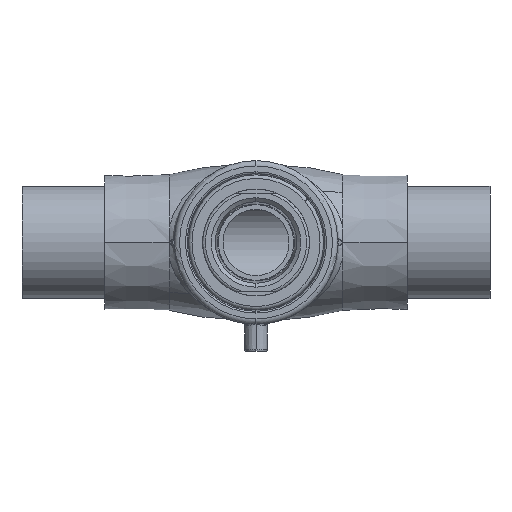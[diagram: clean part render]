
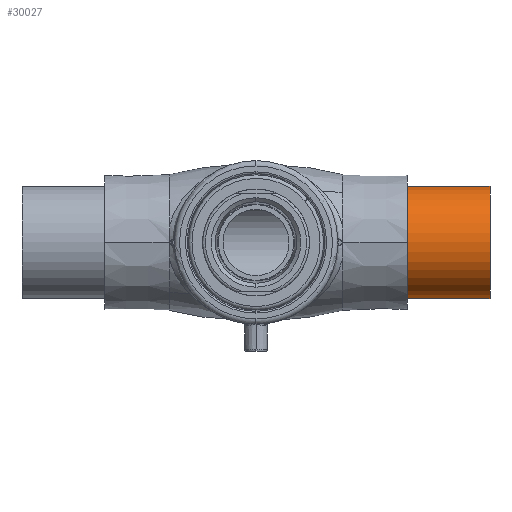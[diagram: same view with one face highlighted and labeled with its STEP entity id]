
A CAD part, left-side view. The second image highlights one B-rep face of the part: STEP entity #30027.
In plain terms, the highlighted cylindrical face has radius 31.5 mm (diameter 63 mm), a partial arc.
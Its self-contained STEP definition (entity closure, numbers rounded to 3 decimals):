
#7494 = DIRECTION ( 'NONE',  ( 0., 1., 0. ) ) ;
#7495 = FACE_OUTER_BOUND ( 'NONE', #39445, .T. ) ;
#7497 = CARTESIAN_POINT ( 'NONE',  ( 509.374, -161.291, -552.079 ) ) ;
#7499 = CYLINDRICAL_SURFACE ( 'NONE', #19145, 31.5 ) ;
#7500 = DIRECTION ( 'NONE',  ( 0., 0., -1. ) ) ;
#9693 = CIRCLE ( 'NONE', #9703, 31.5 ) ;
#9697 = CIRCLE ( 'NONE', #9700, 31.5 ) ;
#9699 = VECTOR ( 'NONE', #13216, 1000. ) ;
#9700 = AXIS2_PLACEMENT_3D ( 'NONE', #13208, #13210, #13212 ) ;
#9702 = VECTOR ( 'NONE', #13229, 1000. ) ;
#9703 = AXIS2_PLACEMENT_3D ( 'NONE', #13222, #13224, #13226 ) ;
#13195 = LINE ( 'NONE', #13197, #9699 ) ;
#13197 = CARTESIAN_POINT ( 'NONE',  ( 509.374, -161.291, -520.579 ) ) ;
#13205 = CARTESIAN_POINT ( 'NONE',  ( 509.374, -161.291, -583.579 ) ) ;
#13208 = CARTESIAN_POINT ( 'NONE',  ( 509.374, -161.291, -552.079 ) ) ;
#13210 = DIRECTION ( 'NONE',  ( 0., -1., 0. ) ) ;
#13212 = DIRECTION ( 'NONE',  ( 0., 0., 1. ) ) ;
#13214 = LINE ( 'NONE', #13205, #9702 ) ;
#13216 = DIRECTION ( 'NONE',  ( 0., 1., 0. ) ) ;
#13222 = CARTESIAN_POINT ( 'NONE',  ( 509.374, -81.031, -552.079 ) ) ;
#13224 = DIRECTION ( 'NONE',  ( 0., -1., 0. ) ) ;
#13226 = DIRECTION ( 'NONE',  ( 0., 0., 1. ) ) ;
#13229 = DIRECTION ( 'NONE',  ( 0., 1., 0. ) ) ;
#19145 = AXIS2_PLACEMENT_3D ( 'NONE', #7497, #7494, #7500 ) ;
#20151 = VERTEX_POINT ( 'NONE', #35275 ) ;
#20169 = VERTEX_POINT ( 'NONE', #35293 ) ;
#20377 = VERTEX_POINT ( 'NONE', #35501 ) ;
#20432 = VERTEX_POINT ( 'NONE', #35556 ) ;
#25248 = ORIENTED_EDGE ( 'NONE', *, *, #36542, .F. ) ;
#25249 = ORIENTED_EDGE ( 'NONE', *, *, #36543, .T. ) ;
#25250 = ORIENTED_EDGE ( 'NONE', *, *, #36544, .T. ) ;
#25251 = ORIENTED_EDGE ( 'NONE', *, *, #36545, .F. ) ;
#30027 = ADVANCED_FACE ( 'NONE', ( #7495 ), #7499, .T. ) ;
#35275 = CARTESIAN_POINT ( 'NONE',  ( 509.374, -81.031, -583.579 ) ) ;
#35293 = CARTESIAN_POINT ( 'NONE',  ( 509.374, -161.291, -583.579 ) ) ;
#35501 = CARTESIAN_POINT ( 'NONE',  ( 509.374, -161.291, -520.579 ) ) ;
#35556 = CARTESIAN_POINT ( 'NONE',  ( 509.374, -81.031, -520.579 ) ) ;
#36542 = EDGE_CURVE ( 'NONE', #20377, #20169, #9697, .T. ) ;
#36543 = EDGE_CURVE ( 'NONE', #20377, #20432, #13195, .T. ) ;
#36544 = EDGE_CURVE ( 'NONE', #20432, #20151, #9693, .T. ) ;
#36545 = EDGE_CURVE ( 'NONE', #20169, #20151, #13214, .T. ) ;
#39445 = EDGE_LOOP ( 'NONE', ( #25248, #25249, #25250, #25251 ) ) ;
